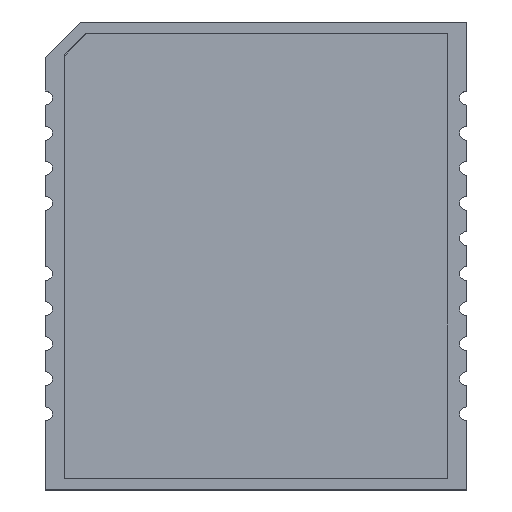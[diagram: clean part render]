
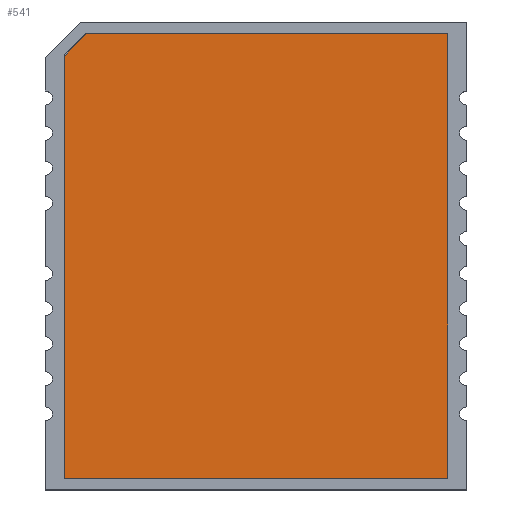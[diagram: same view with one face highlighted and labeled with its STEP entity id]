
A CAD part, top view. The second image highlights one B-rep face of the part: STEP entity #541.
In plain terms, the highlighted planar face has unit normal (0, 0, 1).
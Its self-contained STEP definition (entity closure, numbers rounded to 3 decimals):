
#202 = DIRECTION ( 'NONE',  ( 1., 0., 0. ) ) ;
#289 = ORIENTED_EDGE ( 'NONE', *, *, #2759, .T. ) ;
#322 = AXIS2_PLACEMENT_3D ( 'NONE', #3250, #3218, #202 ) ;
#457 = VERTEX_POINT ( 'NONE', #2487 ) ;
#470 = VECTOR ( 'NONE', #3023, 1000. ) ;
#476 = LINE ( 'NONE', #3954, #1731 ) ;
#541 = ADVANCED_FACE ( 'NONE', ( #4356 ), #2126, .T. ) ;
#635 = ORIENTED_EDGE ( 'NONE', *, *, #1946, .F. ) ;
#960 = DIRECTION ( 'NONE',  ( -1., 0., 0. ) ) ;
#1397 = ORIENTED_EDGE ( 'NONE', *, *, #1539, .F. ) ;
#1479 = CARTESIAN_POINT ( 'NONE',  ( -0.22, 9.404, 22.61 ) ) ;
#1514 = ORIENTED_EDGE ( 'NONE', *, *, #3113, .F. ) ;
#1539 = EDGE_CURVE ( 'NONE', #2234, #4086, #2597, .T. ) ;
#1665 = CARTESIAN_POINT ( 'NONE',  ( 7.98, -0.096, 22.61 ) ) ;
#1704 = DIRECTION ( 'NONE',  ( 0., -1., 0. ) ) ;
#1731 = VECTOR ( 'NONE', #4365, 1000. ) ;
#1802 = DIRECTION ( 'NONE',  ( 0., -1., 0. ) ) ;
#1902 = VERTEX_POINT ( 'NONE', #2042 ) ;
#1946 = EDGE_CURVE ( 'NONE', #4086, #2137, #4040, .T. ) ;
#2042 = CARTESIAN_POINT ( 'NONE',  ( -8.42, 8.445, 22.61 ) ) ;
#2077 = CARTESIAN_POINT ( 'NONE',  ( 7.98, 9.404, 22.61 ) ) ;
#2126 = PLANE ( 'NONE',  #322 ) ;
#2137 = VERTEX_POINT ( 'NONE', #2764 ) ;
#2234 = VERTEX_POINT ( 'NONE', #2077 ) ;
#2487 = CARTESIAN_POINT ( 'NONE',  ( -7.461, 9.404, 22.61 ) ) ;
#2540 = CARTESIAN_POINT ( 'NONE',  ( 7.98, -9.596, 22.61 ) ) ;
#2597 = LINE ( 'NONE', #1665, #4894 ) ;
#2759 = EDGE_CURVE ( 'NONE', #457, #1902, #476, .T. ) ;
#2764 = CARTESIAN_POINT ( 'NONE',  ( -8.42, -9.596, 22.61 ) ) ;
#2873 = CARTESIAN_POINT ( 'NONE',  ( -8.42, -0.096, 22.61 ) ) ;
#2974 = EDGE_CURVE ( 'NONE', #1902, #2137, #4578, .T. ) ;
#3023 = DIRECTION ( 'NONE',  ( 1., 0., 0. ) ) ;
#3030 = VECTOR ( 'NONE', #960, 1000. ) ;
#3113 = EDGE_CURVE ( 'NONE', #457, #2234, #4637, .T. ) ;
#3218 = DIRECTION ( 'NONE',  ( 0., 0., 1. ) ) ;
#3230 = EDGE_LOOP ( 'NONE', ( #1514, #289, #4614, #635, #1397 ) ) ;
#3250 = CARTESIAN_POINT ( 'NONE',  ( -0.22, -0.096, 22.61 ) ) ;
#3569 = VECTOR ( 'NONE', #1802, 1000. ) ;
#3954 = CARTESIAN_POINT ( 'NONE',  ( -8.59, 8.275, 22.61 ) ) ;
#4040 = LINE ( 'NONE', #4444, #3030 ) ;
#4086 = VERTEX_POINT ( 'NONE', #2540 ) ;
#4356 = FACE_OUTER_BOUND ( 'NONE', #3230, .T. ) ;
#4365 = DIRECTION ( 'NONE',  ( -0.707, -0.707, 0. ) ) ;
#4444 = CARTESIAN_POINT ( 'NONE',  ( -0.22, -9.596, 22.61 ) ) ;
#4578 = LINE ( 'NONE', #2873, #3569 ) ;
#4614 = ORIENTED_EDGE ( 'NONE', *, *, #2974, .T. ) ;
#4637 = LINE ( 'NONE', #1479, #470 ) ;
#4894 = VECTOR ( 'NONE', #1704, 1000. ) ;
